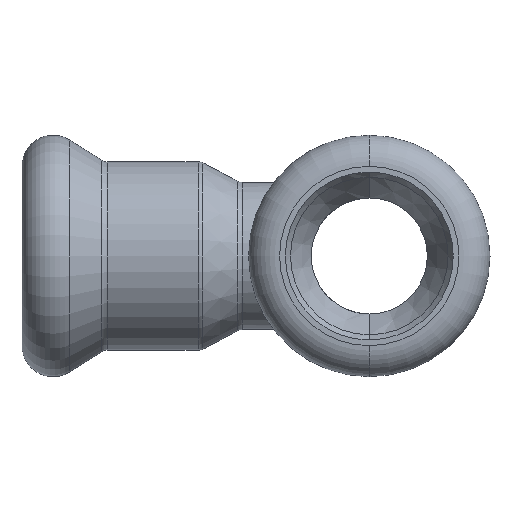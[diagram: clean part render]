
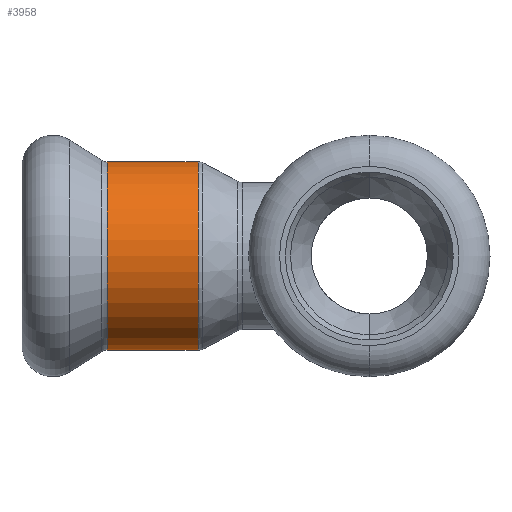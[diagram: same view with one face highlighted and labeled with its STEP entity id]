
A CAD part, left-side view. The second image highlights one B-rep face of the part: STEP entity #3958.
In plain terms, the highlighted cylindrical face has radius 9.1 mm (diameter 18.2 mm), a partial arc.
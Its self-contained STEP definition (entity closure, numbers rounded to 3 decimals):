
#124 = DIRECTION ( 'NONE',  ( 0., -1., 0. ) ) ;
#165 = CARTESIAN_POINT ( 'NONE',  ( 0., 0., 9.1 ) ) ;
#463 = LINE ( 'NONE', #165, #1546 ) ;
#493 = DIRECTION ( 'NONE',  ( 0., 0., 1. ) ) ;
#699 = CYLINDRICAL_SURFACE ( 'NONE', #1629, 9.1 ) ;
#900 = ORIENTED_EDGE ( 'NONE', *, *, #3845, .T. ) ;
#967 = DIRECTION ( 'NONE',  ( 0., -1., 0. ) ) ;
#1013 = FACE_OUTER_BOUND ( 'NONE', #1284, .T. ) ;
#1061 = DIRECTION ( 'NONE',  ( 0., 1., 0. ) ) ;
#1144 = VECTOR ( 'NONE', #2198, 1000. ) ;
#1149 = EDGE_CURVE ( 'NONE', #3230, #3835, #463, .T. ) ;
#1284 = EDGE_LOOP ( 'NONE', ( #3871, #3991, #1302, #900 ) ) ;
#1302 = ORIENTED_EDGE ( 'NONE', *, *, #3950, .T. ) ;
#1530 = CARTESIAN_POINT ( 'NONE',  ( 0., 0., -9.1 ) ) ;
#1546 = VECTOR ( 'NONE', #124, 1000. ) ;
#1629 = AXIS2_PLACEMENT_3D ( 'NONE', #2248, #967, #3918 ) ;
#1860 = LINE ( 'NONE', #1530, #1144 ) ;
#1867 = DIRECTION ( 'NONE',  ( 0., -1., 0. ) ) ;
#1871 = AXIS2_PLACEMENT_3D ( 'NONE', #2561, #1867, #3187 ) ;
#1886 = CARTESIAN_POINT ( 'NONE',  ( 0., 25.281, -9.1 ) ) ;
#2060 = VERTEX_POINT ( 'NONE', #3269 ) ;
#2198 = DIRECTION ( 'NONE',  ( 0., -1., 0. ) ) ;
#2248 = CARTESIAN_POINT ( 'NONE',  ( 0., 0., 0. ) ) ;
#2282 = CIRCLE ( 'NONE', #1871, 9.1 ) ;
#2335 = EDGE_CURVE ( 'NONE', #3230, #3087, #2282, .T. ) ;
#2404 = CARTESIAN_POINT ( 'NONE',  ( 0., 25.281, 9.1 ) ) ;
#2561 = CARTESIAN_POINT ( 'NONE',  ( 0., 25.281, 0. ) ) ;
#2578 = AXIS2_PLACEMENT_3D ( 'NONE', #3968, #1061, #493 ) ;
#3087 = VERTEX_POINT ( 'NONE', #1886 ) ;
#3187 = DIRECTION ( 'NONE',  ( 0., 0., -1. ) ) ;
#3230 = VERTEX_POINT ( 'NONE', #2404 ) ;
#3269 = CARTESIAN_POINT ( 'NONE',  ( 0., 16.511, -9.1 ) ) ;
#3788 = CIRCLE ( 'NONE', #2578, 9.1 ) ;
#3835 = VERTEX_POINT ( 'NONE', #4030 ) ;
#3845 = EDGE_CURVE ( 'NONE', #2060, #3835, #3788, .T. ) ;
#3871 = ORIENTED_EDGE ( 'NONE', *, *, #1149, .F. ) ;
#3918 = DIRECTION ( 'NONE',  ( 0., 0., -1. ) ) ;
#3950 = EDGE_CURVE ( 'NONE', #3087, #2060, #1860, .T. ) ;
#3958 = ADVANCED_FACE ( 'NONE', ( #1013 ), #699, .T. ) ;
#3968 = CARTESIAN_POINT ( 'NONE',  ( 0., 16.511, 0. ) ) ;
#3991 = ORIENTED_EDGE ( 'NONE', *, *, #2335, .T. ) ;
#4030 = CARTESIAN_POINT ( 'NONE',  ( 0., 16.511, 9.1 ) ) ;
